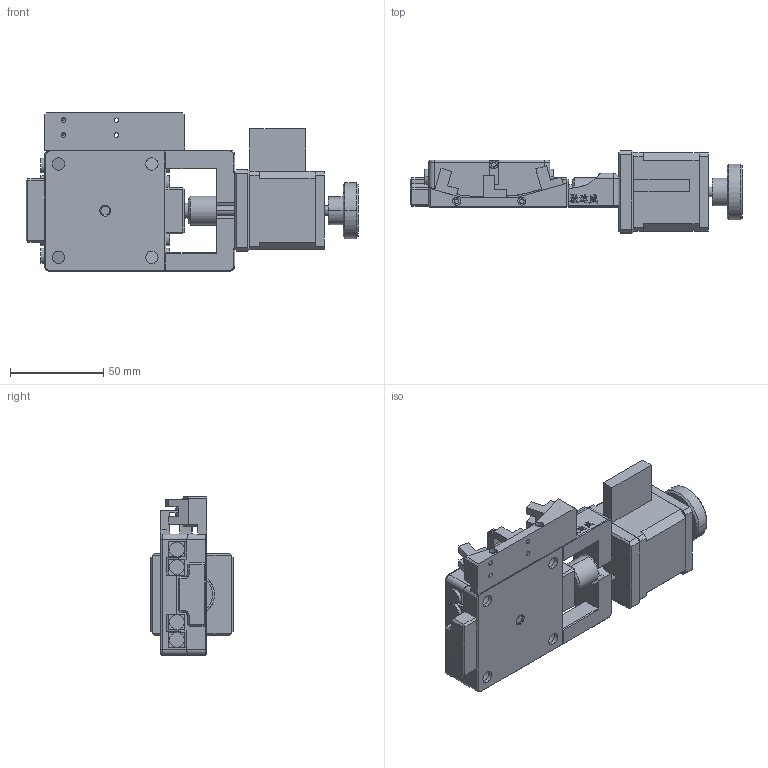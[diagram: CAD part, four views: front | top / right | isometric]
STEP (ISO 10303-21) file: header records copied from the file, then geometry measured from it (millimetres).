
FILE_DESCRIPTION (( 'STEP AP203' ), '1' );
FILE_NAME ('PJ110-15¼Ó¹âµçÏÞÎ».STEP', '2026-08-25T08:16:58', ( '' ), ( '' ), 'SwSTEP 2.0', 'SolidWorks 2025', '' );
FILE_SCHEMA (( 'CONFIG_CONTROL_DESIGN' ));
Length unit declared in the file: millimetre
Products named in the file (15): YK42____.STEP; YK42____.STEP_3_默认<按加工>; 挡片_默认<按加工>; ZJ110-10 __________________.STEP_2_默认<按加工>; YK42____.STEP_4_默认<按加工>; SJ110-10 ______________.STEP_默认<按加工>; ZJ110-10 __________________ .STEP_默认<按加工>; PM-L25 松下U型光电传感器_默认<按加工>; ZJ110-10 __________________.STEP; PJ110-15加光电限位; YK42____.STEP_2_默认<按加工>; 传感器安装座_默认<按加工>; ZJ110-10____.STEP_默认<按加工>; YK42____.STEP-1_默认<按加工>; ZJ110-10 __________________.STEP-0_默认<按加工>
Assembly tree (19 placements, depth 3):
  PJ110-15加光电限位
    ZJ110-10 __________________.STEP
      ZJ110-10 __________________.STEP-0_默认<按加工>
    YK42____.STEP
      YK42____.STEP_4_默认<按加工>
      YK42____.STEP_3_默认<按加工>
      YK42____.STEP_2_默认<按加工>
      YK42____.STEP-1_默认<按加工>
    ZJ110-10 __________________ .STEP_默认<按加工>
    SJ110-10 ______________.STEP_默认<按加工>
    ZJ110-10____.STEP_默认<按加工>  x4
    ZJ110-10 __________________.STEP_2_默认<按加工>
    传感器安装座_默认<按加工>
    PM-L25 松下U型光电传感器_默认<按加工>  x3
    挡片_默认<按加工>
Bounding box: 178 x 44 x 85 mm (x, y, z)
Volume: 230965.6 mm3; surface area: 77999.7 mm2
Topology: 17 solids, 17 shells, 635 faces, 1593 edges, 1019 vertices
Faces by surface type: plane 365, cylinder 161, bspline 87, cone 22
Entity records: 22894 total; most frequent: CARTESIAN_POINT 7928, ORIENTED_EDGE 2846, DIRECTION 2481, EDGE_CURVE 1423, VECTOR 961, LINE 961, VERTEX_POINT 915, AXIS2_PLACEMENT_3D 760
